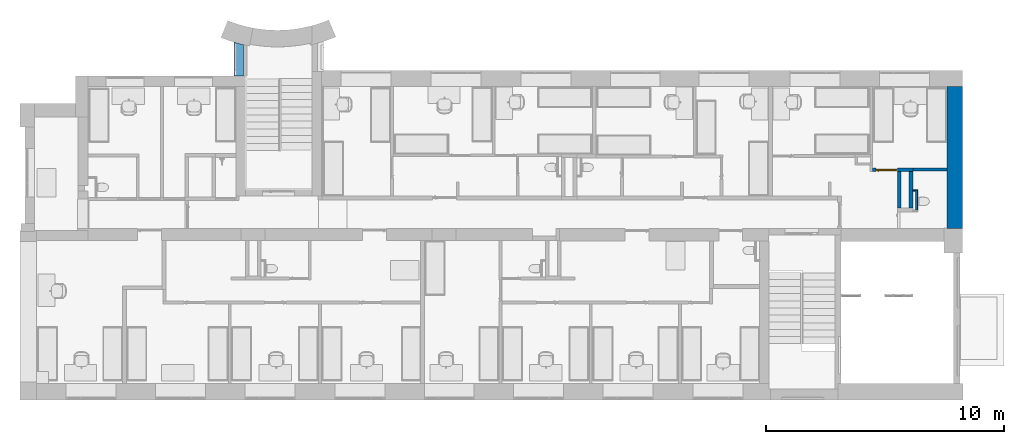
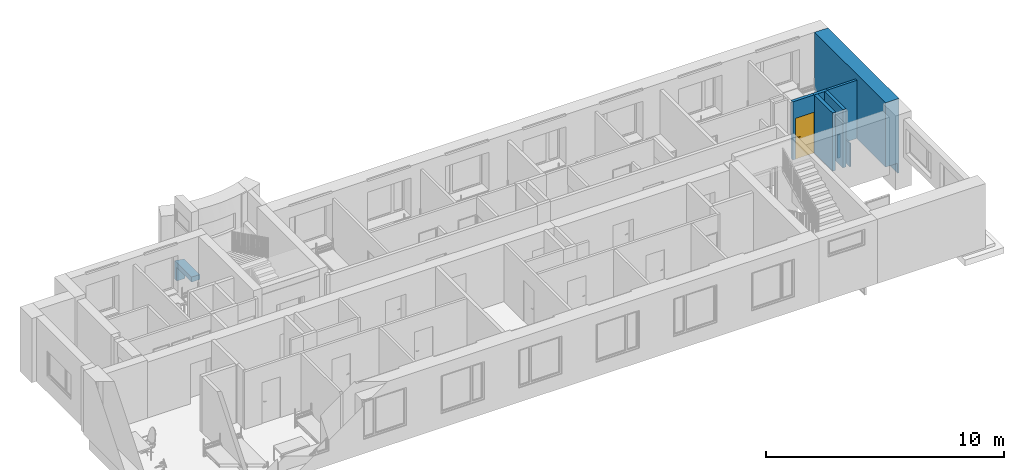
# One storey, part 15 of 46: 9 walls, 1 door, 7 openings.
"""IFC2X3 building model written with IfcOpenShell, lengths in millimetres."""

from ifc_helpers import new_model, entity, si_unit, converted_unit, derived_unit, direction, frame, frame_2d, origin, place, context, subcontext, project, spatial, polyline, rectangle, extrude, clip, bounded_halfspace, faceted_brep, source, transform, mapped, material, material_list, layer, layer_set, layer_usage, type_object, type_shapes, element, fill, save


model = new_model("IFC2X3")

# Units and contexts
model_context = context("Model", 3, precision=0.01, world=origin(), true_north=direction((6.12303176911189e-17, 1.0)))
body_context = subcontext(model_context, "Body", "Model", "MODEL_VIEW")
ifc_project = project(units=[si_unit("LENGTHUNIT", "METRE", prefix="MILLI"), si_unit("AREAUNIT", "SQUARE_METRE"), si_unit("VOLUMEUNIT", "CUBIC_METRE"), converted_unit("PLANEANGLEUNIT", "DEGREE", entity("IfcRatioMeasure", 0.0174532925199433), si_unit("PLANEANGLEUNIT", "RADIAN"), dimensions=[0, 0, 0, 0, 0, 0, 0]), si_unit("MASSUNIT", "GRAM", prefix="KILO"), derived_unit("MASSDENSITYUNIT", [(si_unit("MASSUNIT", "GRAM", prefix="KILO"), 1), (si_unit("LENGTHUNIT", "METRE"), -3)]), si_unit("TIMEUNIT", "SECOND"), si_unit("FREQUENCYUNIT", "HERTZ"), si_unit("THERMODYNAMICTEMPERATUREUNIT", "DEGREE_CELSIUS"), derived_unit("THERMALTRANSMITTANCEUNIT", [(si_unit("MASSUNIT", "GRAM", prefix="KILO"), 1), (si_unit("THERMODYNAMICTEMPERATUREUNIT", "KELVIN"), -1), (si_unit("TIMEUNIT", "SECOND"), -3)]), derived_unit("VOLUMETRICFLOWRATEUNIT", [(si_unit("LENGTHUNIT", "METRE"), 3), (si_unit("TIMEUNIT", "SECOND"), -1)]), si_unit("ELECTRICCURRENTUNIT", "AMPERE"), si_unit("ELECTRICVOLTAGEUNIT", "VOLT"), si_unit("POWERUNIT", "WATT"), si_unit("FORCEUNIT", "NEWTON", prefix="KILO"), si_unit("ILLUMINANCEUNIT", "LUX"), si_unit("LUMINOUSFLUXUNIT", "LUMEN"), si_unit("LUMINOUSINTENSITYUNIT", "CANDELA"), derived_unit("USERDEFINED", [(si_unit("MASSUNIT", "GRAM", prefix="KILO"), -1), (si_unit("LENGTHUNIT", "METRE"), -2), (si_unit("TIMEUNIT", "SECOND"), 3), (si_unit("LUMINOUSFLUXUNIT", "LUMEN"), 1)]), derived_unit("LINEARVELOCITYUNIT", [(si_unit("LENGTHUNIT", "METRE"), 1), (si_unit("TIMEUNIT", "SECOND"), -1)]), si_unit("PRESSUREUNIT", "PASCAL"), derived_unit("USERDEFINED", [(si_unit("LENGTHUNIT", "METRE"), -2), (si_unit("MASSUNIT", "GRAM", prefix="KILO"), 1), (si_unit("TIMEUNIT", "SECOND"), -2)]), derived_unit("LINEARFORCEUNIT", [(si_unit("MASSUNIT", "GRAM", prefix="KILO"), 1), (si_unit("LENGTHUNIT", "METRE"), 1), (si_unit("TIMEUNIT", "SECOND"), -2), (si_unit("LENGTHUNIT", "METRE"), -1)]), derived_unit("PLANARFORCEUNIT", [(si_unit("MASSUNIT", "GRAM", prefix="KILO"), 1), (si_unit("LENGTHUNIT", "METRE"), 1), (si_unit("TIMEUNIT", "SECOND"), -2), (si_unit("LENGTHUNIT", "METRE"), -2)])], contexts=[model_context])

# Site, building, storey
site_placement = place(None, origin())
site = spatial("IfcSite", under=ifc_project, at=site_placement, Name="Default", CompositionType="ELEMENT")
building_placement = place(site_placement, origin())
building = spatial("IfcBuilding", under=site, at=building_placement, Name="SMA ARH", CompositionType="ELEMENT")
storey_placement = place(building_placement, origin())
storey = spatial("IfcBuildingStorey", under=building, at=storey_placement, Name="1 Korrus", CompositionType="ELEMENT", Elevation=0.0)

# Wall, openings
ifc_material_1 = material(Name="_ol.olev sein")
ifc_layer_1 = layer(ifc_material_1, 650.0)
ifc_layer_set_1 = layer_set([ifc_layer_1], Name="Basic Wall:Generic - 650mm")
ifc_layer_usage_1 = layer_usage(ifc_layer_set_1, "AXIS2", "POSITIVE", -325.0)
wall_type_1 = type_object("IfcWallType", Name="Basic Wall:Generic - 650mm", PredefinedType="STANDARD", material=ifc_layer_set_1)
wall_1_placement = place(storey_placement, frame((38640.0, 6520.0, -522.953629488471), z_axis=(0.0, 0.0, 1.0), x_axis=(0.0, 1.0, 0.0)))
wall_1 = element("IfcWallStandardCase", 1, at=wall_1_placement, inside=storey, type_object=wall_type_1, material=ifc_layer_usage_1, Name="Basic Wall:Generic - 650mm", ObjectType="Basic Wall:Generic - 650mm", context=body_context, shape_type="Clipping", body=[
    clip(clip(extrude(rectangle(XDim=5979.99999999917, YDim=650.0, at=frame_2d((2989.99999999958, -3.69482222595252e-13), x_axis=(-1.0, 0.0))), origin(), (0.0, 0.0, 1.0), 3822.95362948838), bounded_halfspace(frame((0.0, -260.0, 522.953629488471), z_axis=(0.0, -1.0, 0.0), x_axis=(1.0, 0.0, 0.0)), True, frame((0.0, -260.0, 522.953629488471), z_axis=(0.0, -1.0, 0.0), x_axis=(1.0, 0.0, 0.0)), polyline([(0.0, 0.0), (0.0, -522.953629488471), (5980.0, -522.953629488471), (5980.0, 0.0), (0.0, 0.0)]))), bounded_halfspace(frame((5980.0, -260.0, 522.953629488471), z_axis=(0.0, 0.0, 1.0), x_axis=(0.0, 1.0, 0.0)), True, frame((5980.0, -260.0, 522.953629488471), z_axis=(0.0, 0.0, 1.0), x_axis=(0.0, 1.0, 0.0)), polyline([(0.0, 0.0), (585.0, 0.0), (585.0, 3440.49859471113), (585.0, 3556.49859471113), (585.0, 5980.0), (20.0, 5980.0), (0.0, 5980.0), (0.0, 0.0)]))),
])
opening_1_placement = place(wall_1_placement, origin())
element("IfcOpeningElement", 2, at=opening_1_placement, cuts=wall_1, Name="Basic Wall:Generic - 650mm", ObjectType="Opening", context=body_context, shape_type="SweptSolid", body=[
    extrude(rectangle(XDim=1450.0, YDim=949.999999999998, at=frame_2d((-2.55795384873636e-13, 0.0), x_axis=(0.0, 1.0))), frame((-1830.0, -1099.0, 587.953629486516), z_axis=(0.0, 1.0, 0.0), x_axis=(-1.0, 0.0, 0.0)), (0.0, 0.0, 1.0), 3048.0),
])
opening_2_placement = place(wall_1_placement, origin())
element("IfcOpeningElement", 3, at=opening_2_placement, cuts=wall_1, Name="Basic Wall:Generic - 650mm", ObjectType="Opening", context=body_context, shape_type="SweptSolid", body=[
    extrude(rectangle(XDim=1300.0, YDim=2130.0, at=frame_2d((-2.27373675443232e-13, 1.70530256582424e-13), x_axis=(0.0, 1.0))), frame((-2285.0, -1473.90099913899, 2502.95362948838), z_axis=(0.0, 1.0, 0.0), x_axis=(-1.0, 0.0, 0.0)), (0.0, 0.0, 1.0), 3048.0),
])

# Wall, opening
ifc_layer_2 = layer(ifc_material_1, 400.0)
ifc_layer_set_2 = layer_set([ifc_layer_2], Name="Basic Wall:Generic - 400mm")
wall_type_2 = type_object("IfcWallType", Name="Basic Wall:Generic - 400mm", PredefinedType="STANDARD", material=ifc_layer_set_2)
wall_2_placement = place(storey_placement, frame((8510.0, 14359.8455573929, 0.0), z_axis=(0.0, 0.0, 1.0), x_axis=(0.0, -1.0, 0.0)))
wall_2 = element("IfcWall", 4, at=wall_2_placement, inside=storey, type_object=wall_type_2, material=ifc_material_1, Name="Basic Wall:Generic - 400mm", ObjectType="Basic Wall:Generic - 400mm", context=body_context, shape_type="Brep", body=[
    faceted_brep([(164.845557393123, -200.0, 700.0), (1413.64251449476, -200.0, 700.0), (1413.64251449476, -200.0, 960.0), (0.0, -200.0, 960.0), (0.0, -200.0, 0.0), (164.845557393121, -200.0, 0.0), (1413.64251449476, 200.0, 960.0), (1413.64251449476, 200.0, 700.0), (164.845557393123, 200.0, 700.0), (164.845557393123, 200.0, 0.0), (106.47452316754, 200.0, 0.0), (106.47452316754, 200.0, 960.0), (56.5024807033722, -0.869156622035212, 0.0), (56.5024807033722, -0.869156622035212, 960.0)], [[[0, 1, 2, 3, 4, 5]], [[6, 7, 8, 9, 10, 11]], [[5, 4, 12, 10, 9]], [[3, 2, 6, 11, 13]], [[8, 7, 1, 0]], [[9, 8, 0, 5]], [[13, 12, 4, 3]], [[11, 10, 12, 13]], [[2, 1, 7, 6]]]),
])
opening_3_placement = place(wall_2_placement, frame((1414.84555739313, 200.0, -1400.0)))
element("IfcOpeningElement", 5, at=opening_3_placement, cuts=wall_2, Name="SMA_D01, 1-poolne:VU-01 - 1250x2100:1", ObjectType="Opening", context=body_context, shape_type="SweptSolid", body=[
    extrude(rectangle(XDim=2099.99999999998, YDim=1250.0, at=frame_2d((1049.99999999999, 625.0), x_axis=(1.0, 0.0))), frame((0.0, 0.0, 0.0), z_axis=(0.0, -1.0, 0.0), x_axis=(0.0, 0.0, 1.0)), (0.0, 0.0, 1.0), 400.0),
])

ifc_material_2 = material(Name="EST. Müüritis. Väikeplokk. Kergkruusplokk")
ifc_layer_3 = layer(ifc_material_2, 150.0)
ifc_layer_set_3 = layer_set([ifc_layer_3], Name="Basic Wall:SS-02_ 150mm šahtide vahesein")
ifc_layer_usage_2 = layer_usage(ifc_layer_set_3, "AXIS2", "POSITIVE", -75.0)
wall_type_3 = type_object("IfcWallType", Name="Basic Wall:SS-02_ 150mm šahtide vahesein", PredefinedType="STANDARD", material=ifc_layer_set_3)
wall_3_placement = place(storey_placement, frame((36230.0, 8984.5014052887, 0.0)))
wall_3 = element("IfcWallStandardCase", 6, at=wall_3_placement, inside=storey, type_object=wall_type_3, material=ifc_layer_usage_2, Name="Basic Wall:SS-02_ 150mm šahtide vahesein", ObjectType="Basic Wall:SS-02_ 150mm šahtide vahesein", context=body_context, shape_type="SweptSolid", body=[
    extrude(rectangle(XDim=649.999999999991, YDim=150.000000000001, at=frame_2d((324.999999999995, 4.68958205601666e-13), x_axis=(-1.0, 0.0))), origin(), (0.0, 0.0, 1.0), 2989.99999999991),
])
opening_4_placement = place(wall_3_placement, origin())
element("IfcOpeningElement", 7, at=opening_4_placement, cuts=wall_3, Name="Basic Wall:SS-02_ 150mm šahtide vahesein", ObjectType="Opening", context=body_context, shape_type="SweptSolid", body=[
    extrude(rectangle(XDim=2099.99999999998, YDim=899.999999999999, at=frame_2d((-2.1600499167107e-12, 0.0), x_axis=(0.0, 1.0))), frame((-450.0, -1449.0, 1050.0), z_axis=(0.0, 1.0, 0.0), x_axis=(-1.0, 0.0, 0.0)), (0.0, 0.0, 1.0), 3048.0),
])

# Wall
ifc_layer_usage_3 = layer_usage(ifc_layer_set_3, "AXIS2", "POSITIVE", -75.0)
wall_4_placement = place(storey_placement, frame((36805.0, 8909.50140528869, 0.0), z_axis=(0.0, 0.0, 1.0), x_axis=(0.0, -1.0, 0.0)))
element("IfcWallStandardCase", 8, at=wall_4_placement, inside=storey, type_object=wall_type_3, material=ifc_layer_usage_3, Name="Basic Wall:SS-02_ 150mm šahtide vahesein", ObjectType="Basic Wall:SS-02_ 150mm šahtide vahesein", context=body_context, shape_type="SweptSolid", body=[
    extrude(rectangle(XDim=1539.50139590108, YDim=150.000000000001, at=frame_2d((769.75069795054, 0.0), x_axis=(-1.0, 0.0))), origin(), (0.0, 0.0, 1.0), 2989.99999999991),
])

# Wall, openings
ifc_layer_usage_4 = layer_usage(ifc_layer_set_3, "AXIS2", "POSITIVE", -75.0)
wall_5_placement = place(storey_placement, frame((36305.0, 7370.0, 0.0), z_axis=(0.0, 0.0, 1.0), x_axis=(0.0, 1.0, 0.0)))
wall_5 = element("IfcWallStandardCase", 9, at=wall_5_placement, inside=storey, type_object=wall_type_3, material=ifc_layer_usage_4, Name="Basic Wall:SS-02_ 150mm šahtide vahesein", ObjectType="Basic Wall:SS-02_ 150mm šahtide vahesein", context=body_context, shape_type="SweptSolid", body=[
    extrude(rectangle(XDim=1539.50139590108, YDim=150.000000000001, at=frame_2d((769.75069795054, 0.0), x_axis=(-1.0, 0.0))), origin(), (0.0, 0.0, 1.0), 2989.99999999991),
])
opening_5_placement = place(wall_5_placement, origin())
element("IfcOpeningElement", 10, at=opening_5_placement, cuts=wall_5, Name="Basic Wall:SS-02_ 150mm šahtide vahesein", ObjectType="Opening", context=body_context, shape_type="SweptSolid", body=[
    extrude(rectangle(XDim=2099.99999999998, YDim=700.0, at=frame_2d((0.0, 5.40012479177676e-13), x_axis=(1.0, 0.0))), frame((-500.000009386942, -1565.0, 1050.0), z_axis=(0.0, 1.0, 0.0), x_axis=(0.0, 0.0, 1.0)), (0.0, 0.0, 1.0), 3048.0),
])
opening_6_placement = place(wall_5_placement, origin())
element("IfcOpeningElement", 11, at=opening_6_placement, cuts=wall_5, Name="Basic Wall:SS-02_ 150mm šahtide vahesein", ObjectType="Opening", context=body_context, shape_type="SweptSolid", body=[
    extrude(rectangle(XDim=2099.99999999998, YDim=145.0, at=frame_2d((1.08002495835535e-12, 0.0), x_axis=(0.0, 1.0))), frame((1617.00139590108, 75.0, 1050.0), z_axis=(0.0, 1.0, 0.0), x_axis=(1.0, 0.0, 0.0)), (0.0, 0.0, 1.0), 899.999999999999),
])

# Walls
ifc_material_3 = material(Name="EST. Ehitusplaat. Kipsplaat")
ifc_layer_4 = layer(ifc_material_3, 12.5)
ifc_layer_5 = layer(ifc_material_3, 12.5)
ifc_material_4 = material(Name="EST. Soojustus. Mineraalvill. Default")
ifc_layer_6 = layer(ifc_material_4, 66.0)
ifc_layer_7 = layer(ifc_material_3, 12.5)
ifc_layer_8 = layer(ifc_material_3, 12.5)
ifc_layer_set_4 = layer_set([ifc_layer_4, ifc_layer_5, ifc_layer_6, ifc_layer_7, ifc_layer_8], Name="Basic Wall:SS-05_Kips, 66mm metallkarkass")
ifc_layer_usage_5 = layer_usage(ifc_layer_set_4, "AXIS2", "NEGATIVE", 58.0)
wall_type_4 = type_object("IfcWallType", Name="Basic Wall:SS-05_Kips, 66mm metallkarkass", PredefinedType="STANDARD", material=ifc_layer_set_4)
wall_6_placement = place(storey_placement, frame((36880.0, 9001.5014052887, 0.0)))
element("IfcWallStandardCase", 12, at=wall_6_placement, inside=storey, type_object=wall_type_4, material=ifc_layer_usage_5, Name="Basic Wall:SS-05_Kips, 66mm metallkarkass", ObjectType="Basic Wall:SS-05_Kips, 66mm metallkarkass", context=body_context, shape_type="SweptSolid", body=[
    extrude(rectangle(XDim=1435.00001631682, YDim=116.0, at=frame_2d((717.500008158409, -7.105427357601e-15), x_axis=(-1.0, 0.0))), origin(), (0.0, 0.0, 1.0), 2989.99999999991),
])
ifc_material_5 = material(Name="EST. Põrand. Plaatkate")
ifc_layer_9 = layer(ifc_material_5, 10.0)
ifc_layer_10 = layer(ifc_material_3, 12.5)
ifc_material_6 = material(Name="EST. Õhkvahe. Roov. Kipsplaadi alusroov. Vertikaalne")
ifc_layer_11 = layer(ifc_material_6, 42.0)
ifc_layer_set_5 = layer_set([ifc_layer_9, ifc_layer_10, ifc_layer_11], Name="Basic Wall:SS-04 - loputuskast")
ifc_layer_usage_6 = layer_usage(ifc_layer_set_5, "AXIS2", "POSITIVE", -32.25)
wall_type_5 = type_object("IfcWallType", Name="Basic Wall:SS-04 - loputuskast", PredefinedType="STANDARD", material=ifc_layer_set_5)
wall_7_placement = place(storey_placement, frame((37047.7499836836, 7284.50000938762, 0.0), z_axis=(0.0, 0.0, 1.0), x_axis=(0.0, 1.0, 0.0)))
element("IfcWallStandardCase", 13, at=wall_7_placement, inside=storey, type_object=wall_type_5, material=ifc_layer_usage_6, Name="Basic Wall:SS-04 - loputuskast", ObjectType="Basic Wall:SS-04 - loputuskast", context=body_context, shape_type="SweptSolid", body=[
    extrude(rectangle(XDim=859.001395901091, YDim=64.5000000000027, at=frame_2d((429.500697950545, 2.03570493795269e-12), x_axis=(-1.0, 0.0))), origin(), (0.0, 0.0, 1.0), 1200.0),
])
ifc_layer_usage_7 = layer_usage(ifc_layer_set_5, "AXIS2", "POSITIVE", -32.25)
wall_8_placement = place(storey_placement, frame((37015.4999836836, 8111.25140528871, 0.0), z_axis=(0.0, 0.0, 1.0), x_axis=(-1.0, 0.0, 0.0)))
element("IfcWallStandardCase", 14, at=wall_8_placement, inside=storey, type_object=wall_type_5, material=ifc_layer_usage_7, Name="Basic Wall:SS-04 - loputuskast", ObjectType="Basic Wall:SS-04 - loputuskast", context=body_context, shape_type="SweptSolid", body=[
    extrude(rectangle(XDim=135.499999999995, YDim=64.5000000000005, at=frame_2d((67.7499999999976, -1.03028696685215e-13), x_axis=(-1.0, 0.0))), origin(), (0.0, 0.0, 1.0), 1200.0),
])

# Wall, opening, door
ifc_layer_12 = layer(ifc_material_3, 12.5)
ifc_layer_13 = layer(ifc_material_3, 12.5)
ifc_layer_14 = layer(ifc_material_6, 95.0)
ifc_layer_15 = layer(ifc_material_3, 12.5)
ifc_layer_16 = layer(ifc_material_3, 12.5)
ifc_layer_set_6 = layer_set([ifc_layer_12, ifc_layer_13, ifc_layer_14, ifc_layer_15, ifc_layer_16], Name="Basic Wall:SS-04_Kips, 95mm metallkarkass")
ifc_layer_usage_8 = layer_usage(ifc_layer_set_6, "AXIS2", "NEGATIVE", 72.5)
wall_type_6 = type_object("IfcWallType", Name="Basic Wall:SS-04_Kips, 95mm metallkarkass", PredefinedType="STANDARD", material=ifc_layer_set_6)
wall_9_placement = place(storey_placement, frame((36230.0, 8987.0014052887, 0.0), z_axis=(0.0, 0.0, 1.0), x_axis=(-1.0, 0.0, 0.0)))
wall_9 = element("IfcWallStandardCase", 15, at=wall_9_placement, inside=storey, type_object=wall_type_6, material=ifc_layer_usage_8, Name="Basic Wall:SS-04_Kips, 95mm metallkarkass", ObjectType="Basic Wall:SS-04_Kips, 95mm metallkarkass", context=body_context, shape_type="SweptSolid", body=[
    extrude(rectangle(XDim=1036.49998368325, YDim=145.0, at=frame_2d((518.249991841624, 7.105427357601e-14), x_axis=(-1.0, 0.0))), origin(), (0.0, 0.0, 1.0), 2989.99999999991),
])
opening_7_placement = place(wall_9_placement, frame((1.63164025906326e-05, -72.5000000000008, 0.0)))
opening_7 = element("IfcOpeningElement", 16, at=opening_7_placement, cuts=wall_9, Name="SMA_D01, 1-poolne:SU-P-05 - 900x2100 TUBA:1", ObjectType="Opening", context=body_context, shape_type="SweptSolid", body=[
    extrude(rectangle(XDim=2099.99999999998, YDim=900.0, at=frame_2d((1049.99999999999, 450.0), x_axis=(1.0, 0.0))), frame((0.0, 0.0, 0.0), z_axis=(0.0, 1.0, 0.0), x_axis=(0.0, 0.0, 1.0)), (0.0, 0.0, 1.0), 145.0),
])
ifc_material_7 = material(Name="EST. Metall. Alumiinium. Värvitud. RAL7023 (Concrete grey)")
ifc_material_8 = material(Name="<Unnamed>")
ifc_material_9 = material(Name="EST. Klaas. 3x. Default")
ifc_material_list = material_list([ifc_material_8, ifc_material_9, ifc_material_7, ifc_material_7, ifc_material_8, ifc_material_8, ifc_material_7])
door_style = type_object("IfcDoorStyle", Name="SMA_D01, 1-poolne:SU-P-05 - 900x2100 TUBA", ConstructionType="NOTDEFINED", OperationType="SINGLE_SWING_LEFT", ParameterTakesPrecedence=False, Sizeable=False, material=ifc_material_list)
shared_shape = source(origin(), body_context, "Body", "Brep", [
    faceted_brep([(790.0, 35.0, 1112.5), (695.0, 35.0, 1112.5), (695.0, 30.0, 1112.5), (815.0, 30.0, 1112.5), (815.0, 73.0, 1112.5), (790.0, 73.0, 1112.5), (790.0, 35.0, 1087.5), (790.0, 73.0, 1087.5), (815.0, 73.0, 1087.5), (815.0, 30.0, 1087.5), (695.0, 30.0, 1087.5), (695.0, 35.0, 1087.5)], [[[0, 1, 2, 3, 4, 5]], [[6, 7, 8, 9, 10, 11]], [[5, 7, 6, 0]], [[4, 8, 7, 5]], [[3, 9, 8, 4]], [[2, 10, 9, 3]], [[1, 11, 10, 2]], [[0, 6, 11, 1]]]),
    faceted_brep([(777.500000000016, 73.0, 1137.5), (827.500000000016, 73.0, 1137.5), (827.500000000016, 75.0, 1137.5), (777.500000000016, 75.0, 1137.5), (777.500000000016, 73.0, 1017.5), (777.500000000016, 75.0, 1017.5), (827.500000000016, 75.0, 1017.5), (827.500000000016, 73.0, 1017.5)], [[[0, 1, 2, 3]], [[4, 5, 6, 7]], [[3, 5, 4, 0]], [[2, 6, 5, 3]], [[1, 7, 6, 2]], [[0, 4, 7, 1]]]),
    faceted_brep([(790.0, 165.0, 1112.5), (790.0, 127.0, 1112.5), (815.0, 127.0, 1112.5), (815.0, 170.0, 1112.5), (695.0, 170.0, 1112.5), (695.0, 165.0, 1112.5), (790.0, 165.0, 1087.5), (695.0, 165.0, 1087.5), (695.0, 170.0, 1087.5), (815.0, 170.0, 1087.5), (815.0, 127.0, 1087.5), (790.0, 127.0, 1087.5)], [[[0, 1, 2, 3, 4, 5]], [[6, 7, 8, 9, 10, 11]], [[1, 0, 6, 11]], [[2, 1, 11, 10]], [[3, 2, 10, 9]], [[4, 3, 9, 8]], [[5, 4, 8, 7]], [[0, 5, 7, 6]]]),
    faceted_brep([(777.500000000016, 127.0, 1137.5), (777.500000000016, 125.0, 1137.5), (827.500000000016, 125.0, 1137.5), (827.500000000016, 127.0, 1137.5), (777.500000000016, 127.0, 1017.5), (827.500000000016, 127.0, 1017.5), (827.500000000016, 125.0, 1017.5), (777.500000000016, 125.0, 1017.5)], [[[0, 1, 2, 3]], [[4, 5, 6, 7]], [[1, 0, 4, 7]], [[2, 1, 7, 6]], [[3, 2, 6, 5]], [[0, 3, 5, 4]]]),
    faceted_brep([(50.0, 35.0, 30.0), (50.0, 75.0, 30.0), (50.0, 75.0, 20.0), (50.0, 75.0, 0.0), (50.0, 35.0, 0.0), (850.0, 35.0, 30.0), (850.0, 35.0, 0.0), (850.0, 75.0, 0.0), (850.0, 75.0, 20.0), (850.0, 75.0, 30.0), (35.0, 75.0, 0.0), (35.0, 125.0, 0.0), (865.0, 125.0, 0.0), (865.0, 75.0, 0.0), (35.0, 125.0, 20.0), (35.0, 75.0, 20.0), (865.0, 125.0, 20.0), (865.0, 75.0, 20.0)], [[[0, 1, 2, 3, 4]], [[5, 6, 7, 8, 9]], [[4, 6, 5, 0]], [[3, 10, 11, 12, 13, 7, 6, 4]], [[9, 8, 2, 1]], [[0, 5, 9, 1]], [[14, 11, 10, 15]], [[16, 17, 13, 12]], [[15, 2, 8, 17, 16, 14]], [[10, 3, 2, 15]], [[14, 16, 12, 11]], [[17, 8, 7, 13]]]),
    faceted_brep([(10.0, 35.0, 0.0), (10.0, 125.0, 0.0), (35.0, 125.0, 0.0), (35.0, 75.0, 0.0), (50.0, 75.0, 0.0), (50.0, 35.0, 0.0), (50.0, 35.0, 2050.0), (850.0, 35.0, 2050.0), (850.0, 35.0, 0.0), (890.0, 35.0, 0.0), (890.0, 35.0, 2090.0), (10.0, 35.0, 2090.0), (50.0, 75.0, 2050.0), (35.0, 75.0, 2065.0), (865.0, 75.0, 2065.0), (865.0, 75.0, 0.0), (850.0, 75.0, 0.0), (850.0, 75.0, 2050.0), (35.0, 125.0, 2065.0), (10.0, 125.0, 2090.0), (890.0, 125.0, 2090.0), (890.0, 125.0, 0.0), (865.0, 125.0, 0.0), (865.0, 125.0, 2065.0)], [[[0, 1, 2, 3, 4, 5]], [[5, 6, 7, 8, 9, 10, 11, 0]], [[4, 12, 6, 5]], [[3, 13, 14, 15, 16, 17, 12, 4]], [[2, 18, 13, 3]], [[1, 19, 20, 21, 22, 23, 18, 2]], [[0, 11, 19, 1]], [[9, 21, 20, 10]], [[8, 16, 15, 22, 21, 9]], [[7, 17, 16, 8]], [[14, 23, 22, 15]], [[6, 12, 17, 7]], [[13, 18, 23, 14]], [[10, 20, 19, 11]]]),
    faceted_brep([(865.0, 75.0, 2065.0), (35.0, 75.0, 2065.0), (35.0, 75.0, 20.0), (865.0, 75.0, 20.0), (865.0, 125.0, 2065.0), (865.0, 125.0, 20.0), (35.0, 125.0, 20.0), (35.0, 125.0, 2065.0)], [[[0, 1, 2, 3]], [[4, 5, 6, 7]], [[3, 5, 4, 0]], [[2, 6, 5, 3]], [[1, 7, 6, 2]], [[0, 4, 7, 1]]]),
])
type_shapes(door_style, [shared_shape])
door_placement = place(opening_7_placement, frame((-1.63164004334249e-05, 0.0, 0.0)))
door = element("IfcDoor", 17, at=door_placement, inside=storey, type_object=door_style, material=ifc_material_7, Name="SMA_D01, 1-poolne:SU-P-05 - 900x2100 TUBA", ObjectType="SMA_D01, 1-poolne:SU-P-05 - 900x2100 TUBA", OverallHeight=2099.99999999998, OverallWidth=899.999999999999, context=body_context, shape_type="MappedRepresentation", body=[
    mapped(shared_shape, transform((0.0, 0.0, 0.0), scale=1.0)),
])
fill(opening_7, door)

save(model, "model.ifc")
